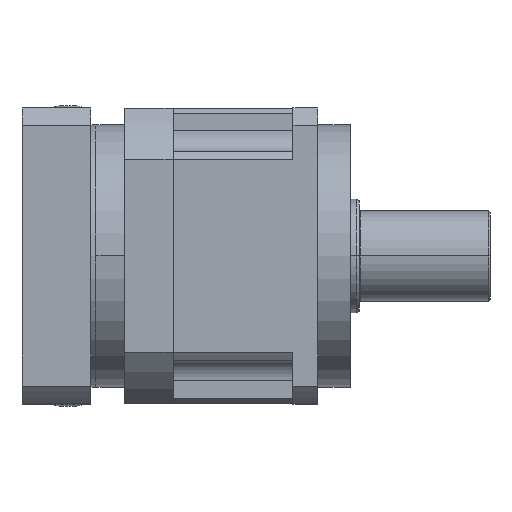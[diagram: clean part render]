
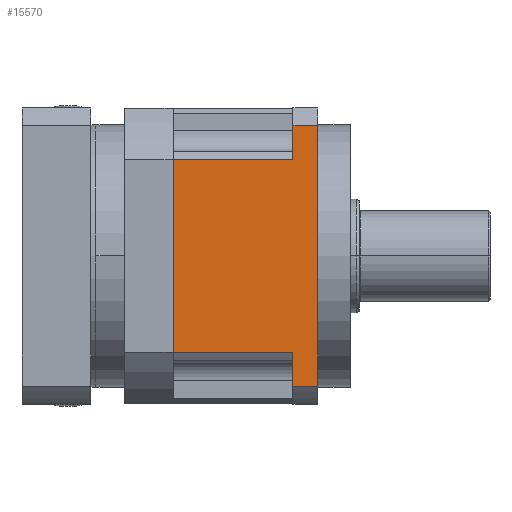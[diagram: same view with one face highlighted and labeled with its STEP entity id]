
A CAD part, top view. The second image highlights one B-rep face of the part: STEP entity #15570.
In plain terms, the highlighted planar face has unit normal (0, 0, 1).
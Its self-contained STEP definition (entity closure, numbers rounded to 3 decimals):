
#711 = ORIENTED_EDGE ( 'NONE', *, *, #10176, .T. ) ;
#1028 = VERTEX_POINT ( 'NONE', #2871 ) ;
#1147 = PLANE ( 'NONE',  #16116 ) ;
#2205 = CARTESIAN_POINT ( 'NONE',  ( 73., 107.5, 90. ) ) ;
#2855 = DIRECTION ( 'NONE',  ( 0., 1., 0. ) ) ;
#2871 = CARTESIAN_POINT ( 'NONE',  ( 73., 79.373, 90. ) ) ;
#3327 = VECTOR ( 'NONE', #2855, 1000. ) ;
#3349 = ORIENTED_EDGE ( 'NONE', *, *, #16523, .T. ) ;
#3502 = DIRECTION ( 'NONE',  ( 0., -1., 0. ) ) ;
#3968 = VERTEX_POINT ( 'NONE', #6744 ) ;
#4152 = FACE_OUTER_BOUND ( 'NONE', #10164, .T. ) ;
#4536 = VECTOR ( 'NONE', #9584, 1000. ) ;
#5125 = VECTOR ( 'NONE', #14788, 1000. ) ;
#5490 = VECTOR ( 'NONE', #9027, 1000. ) ;
#5505 = EDGE_CURVE ( 'NONE', #10556, #9964, #10530, .T. ) ;
#5571 = VERTEX_POINT ( 'NONE', #12178 ) ;
#6041 = ORIENTED_EDGE ( 'NONE', *, *, #11123, .T. ) ;
#6143 = VERTEX_POINT ( 'NONE', #6311 ) ;
#6311 = CARTESIAN_POINT ( 'NONE',  ( 0., -58.79, 90. ) ) ;
#6340 = DIRECTION ( 'NONE',  ( 0., 0., -1. ) ) ;
#6425 = DIRECTION ( 'NONE',  ( 1., 0., 0. ) ) ;
#6674 = CARTESIAN_POINT ( 'NONE',  ( 88., 120., 90. ) ) ;
#6724 = LINE ( 'NONE', #6674, #3327 ) ;
#6744 = CARTESIAN_POINT ( 'NONE',  ( 88., 79.373, 90. ) ) ;
#6887 = EDGE_CURVE ( 'NONE', #14568, #6143, #10085, .T. ) ;
#7073 = VECTOR ( 'NONE', #7428, 1000. ) ;
#7428 = DIRECTION ( 'NONE',  ( 0., -1., 0. ) ) ;
#7453 = EDGE_CURVE ( 'NONE', #6143, #11615, #9264, .T. ) ;
#7722 = CARTESIAN_POINT ( 'NONE',  ( 97.7, 79.373, 90. ) ) ;
#8193 = CARTESIAN_POINT ( 'NONE',  ( 97.7, -79.373, 90. ) ) ;
#8313 = CARTESIAN_POINT ( 'NONE',  ( 73., 107.5, 90. ) ) ;
#8402 = CARTESIAN_POINT ( 'NONE',  ( 73., -79.373, 90. ) ) ;
#8441 = ORIENTED_EDGE ( 'NONE', *, *, #7453, .T. ) ;
#8467 = ORIENTED_EDGE ( 'NONE', *, *, #6887, .T. ) ;
#8780 = ORIENTED_EDGE ( 'NONE', *, *, #10991, .T. ) ;
#8920 = LINE ( 'NONE', #7722, #5490 ) ;
#8984 = EDGE_CURVE ( 'NONE', #3968, #1028, #8920, .T. ) ;
#9027 = DIRECTION ( 'NONE',  ( -1., 0., 0. ) ) ;
#9053 = ORIENTED_EDGE ( 'NONE', *, *, #8984, .T. ) ;
#9073 = VECTOR ( 'NONE', #3502, 1000. ) ;
#9264 = LINE ( 'NONE', #10248, #12297 ) ;
#9584 = DIRECTION ( 'NONE',  ( 0., -1., 0. ) ) ;
#9964 = VERTEX_POINT ( 'NONE', #10212 ) ;
#10085 = LINE ( 'NONE', #15145, #7073 ) ;
#10164 = EDGE_LOOP ( 'NONE', ( #6041, #8467, #8441, #711, #15785, #8780, #9053, #3349 ) ) ;
#10176 = EDGE_CURVE ( 'NONE', #11615, #10556, #12499, .T. ) ;
#10212 = CARTESIAN_POINT ( 'NONE',  ( 88., -79.373, 90. ) ) ;
#10248 = CARTESIAN_POINT ( 'NONE',  ( 97.7, -58.79, 90. ) ) ;
#10530 = LINE ( 'NONE', #8193, #16588 ) ;
#10556 = VERTEX_POINT ( 'NONE', #8402 ) ;
#10991 = EDGE_CURVE ( 'NONE', #9964, #3968, #6724, .T. ) ;
#11123 = EDGE_CURVE ( 'NONE', #5571, #14568, #15394, .T. ) ;
#11455 = CARTESIAN_POINT ( 'NONE',  ( 73., -58.79, 90. ) ) ;
#11615 = VERTEX_POINT ( 'NONE', #11455 ) ;
#12178 = CARTESIAN_POINT ( 'NONE',  ( 73., 58.79, 90. ) ) ;
#12297 = VECTOR ( 'NONE', #6425, 1000. ) ;
#12499 = LINE ( 'NONE', #2205, #9073 ) ;
#13497 = CARTESIAN_POINT ( 'NONE',  ( 97.7, 58.79, 90. ) ) ;
#14049 = CARTESIAN_POINT ( 'NONE',  ( 108., 84.502, 90. ) ) ;
#14568 = VERTEX_POINT ( 'NONE', #16443 ) ;
#14654 = DIRECTION ( 'NONE',  ( 1., 0., 0. ) ) ;
#14788 = DIRECTION ( 'NONE',  ( -1., 0., 0. ) ) ;
#14801 = LINE ( 'NONE', #8313, #4536 ) ;
#15145 = CARTESIAN_POINT ( 'NONE',  ( 0., 84.502, 90. ) ) ;
#15352 = DIRECTION ( 'NONE',  ( 0., 1., 0. ) ) ;
#15394 = LINE ( 'NONE', #13497, #5125 ) ;
#15570 = ADVANCED_FACE ( 'NONE', ( #4152 ), #1147, .F. ) ;
#15785 = ORIENTED_EDGE ( 'NONE', *, *, #5505, .T. ) ;
#16116 = AXIS2_PLACEMENT_3D ( 'NONE', #14049, #6340, #15352 ) ;
#16443 = CARTESIAN_POINT ( 'NONE',  ( 0., 58.79, 90. ) ) ;
#16523 = EDGE_CURVE ( 'NONE', #1028, #5571, #14801, .T. ) ;
#16588 = VECTOR ( 'NONE', #14654, 1000. ) ;
